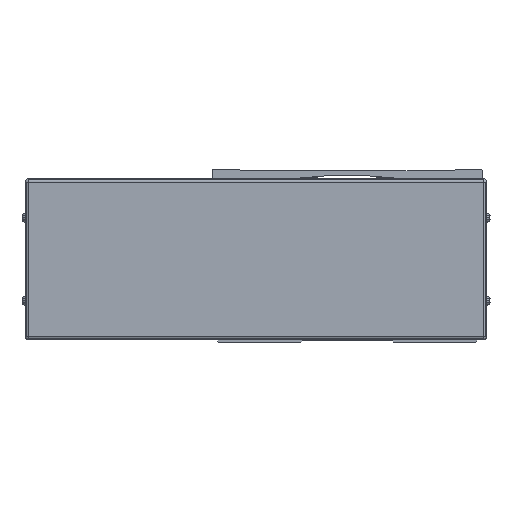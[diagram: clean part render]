
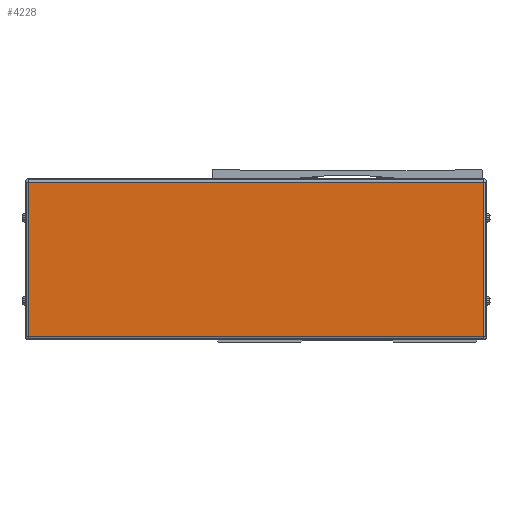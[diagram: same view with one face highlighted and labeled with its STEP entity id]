
A CAD part, front view. The second image highlights one B-rep face of the part: STEP entity #4228.
In plain terms, the highlighted planar face has unit normal (0, -1, 0).
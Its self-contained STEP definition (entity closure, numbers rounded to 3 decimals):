
#4228=ADVANCED_FACE('',(#10337),#10338,.F.);
#10337=FACE_OUTER_BOUND('',#19088,.T.);
#10338=PLANE('',#19089);
#19088=EDGE_LOOP('',(#33100,#33101,#33102,#33103));
#19089=AXIS2_PLACEMENT_3D('',#33104,#33105,#33106);
#33100=ORIENTED_EDGE('',*,*,#55044,.T.);
#33101=ORIENTED_EDGE('',*,*,#55045,.T.);
#33102=ORIENTED_EDGE('',*,*,#55046,.T.);
#33103=ORIENTED_EDGE('',*,*,#55047,.T.);
#33104=CARTESIAN_POINT('',(-655.,-222.778,-2.));
#33105=DIRECTION('',(0.,1.0,0.));
#33106=DIRECTION('',(-1.0,0.,0.));
#55044=EDGE_CURVE('',#67165,#67166,#67167,.T.);
#55045=EDGE_CURVE('',#67166,#67168,#67169,.T.);
#55046=EDGE_CURVE('',#67168,#67170,#67171,.T.);
#55047=EDGE_CURVE('',#67170,#67165,#67172,.T.);
#67165=VERTEX_POINT('',#84418);
#67166=VERTEX_POINT('',#84419);
#67167=LINE('',#84420,#84421);
#67168=VERTEX_POINT('',#84422);
#67169=LINE('',#84423,#84424);
#67170=VERTEX_POINT('',#84425);
#67171=LINE('',#84426,#84427);
#67172=LINE('',#84428,#84429);
#84418=CARTESIAN_POINT('',(-517.9,-222.778,44.5));
#84419=CARTESIAN_POINT('',(-792.1,-222.778,44.5));
#84420=CARTESIAN_POINT('',(-655.,-222.778,44.5));
#84421=VECTOR('',#100515,10.0);
#84422=CARTESIAN_POINT('',(-792.1,-222.778,-48.5));
#84423=CARTESIAN_POINT('',(-792.1,-222.778,-2.));
#84424=VECTOR('',#100516,10.0);
#84425=CARTESIAN_POINT('',(-517.9,-222.778,-48.5));
#84426=CARTESIAN_POINT('',(-655.,-222.778,-48.5));
#84427=VECTOR('',#100517,10.0);
#84428=CARTESIAN_POINT('',(-517.9,-222.778,-2.));
#84429=VECTOR('',#100518,10.0);
#100515=DIRECTION('',(-1.0,0.,0.));
#100516=DIRECTION('',(0.,0.,-1.0));
#100517=DIRECTION('',(1.0,0.,0.));
#100518=DIRECTION('',(0.,0.,1.0));
